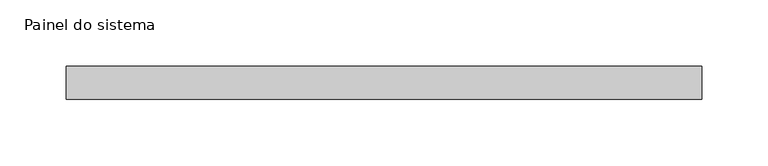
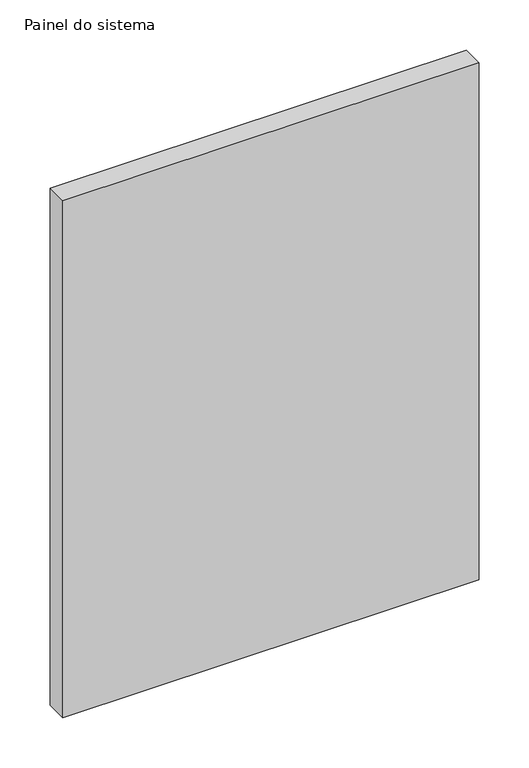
"""IFC4 building model written with IfcOpenShell, lengths in millimetres: plate geometry, Painel do sistema : Envidraçado."""

from ifc_helpers import new_model, si_unit, origin, origin_with_axes, place, context, project, spatial, polyline, outline, extrude, source, transform, mapped, element, save


def painel_do_sistema_f72b3690(model_context):
    return source(origin(), model_context, "Body", "SweptSolid", [
        extrude(outline(polyline([(240.0, 24.5), (-240.0, 24.5), (-240.0, 49.5), (240.0, 49.5), (240.0, 24.5)])), origin_with_axes(), (0.0, 0.0, 1.0), 630.0),
    ])


if __name__ == "__main__":
    model = new_model("IFC4")
    model_context = context("Model", 3, world=origin())
    ifc_project = project(units=[si_unit("LENGTHUNIT", "METRE", prefix="MILLI")], contexts=[model_context])
    site = spatial("IfcSite", under=ifc_project)
    building = spatial("IfcBuilding", under=site)
    placement = place(None, origin())
    painel_do_sistema_shape = painel_do_sistema_f72b3690(model_context)
    element("IfcPlate", 1, ObjectType="Painel do sistema : Envidraçado", at=placement, inside=building, context=model_context, shape_type="MappedRepresentation", body=[
        mapped(painel_do_sistema_shape, transform((0.0, 0.0, 0.0), x_axis=(1.0, 0.0, 0.0), y_axis=(0.0, 1.0, 0.0), z_axis=(0.0, 0.0, 1.0))),
    ])
    save(model, "model.ifc")
